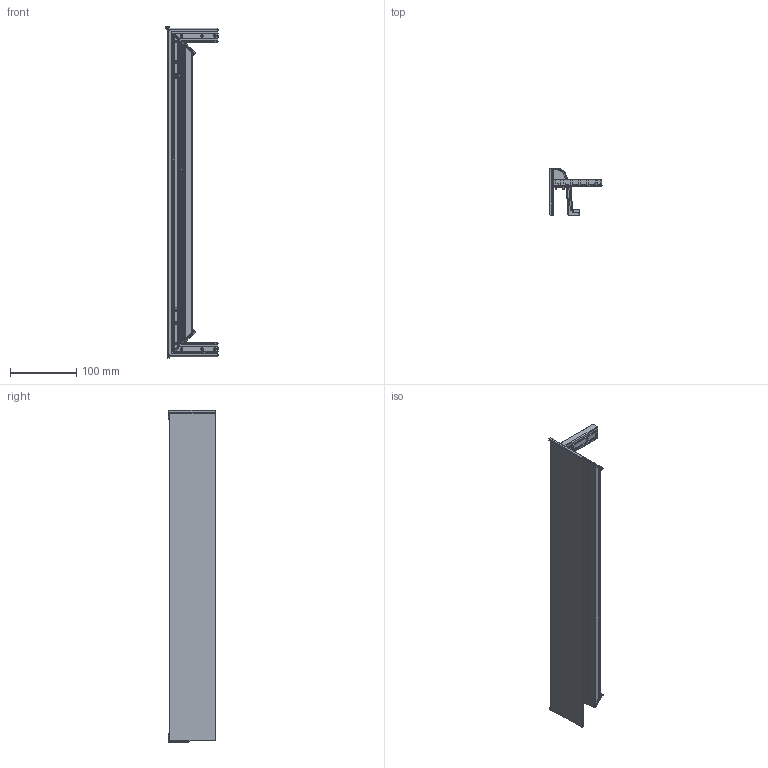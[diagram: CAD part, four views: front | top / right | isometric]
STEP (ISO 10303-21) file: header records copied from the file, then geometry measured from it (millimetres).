
FILE_DESCRIPTION (( 'STEP AP203' ), '1' );
FILE_NAME ('A - Sponda Laterale SX.STEP', '2023-02-09T21:31:15', ( '' ), ( '' ), 'SwSTEP 2.0', 'SolidWorks 2023', '' );
FILE_SCHEMA (( 'CONFIG_CONTROL_DESIGN' ));
Length unit declared in the file: millimetre
Products named in the file (5): Angolare - 191P01100; Spondina 496 - 191P00100; Pinna Angolare Posteriore - 191P01300; Pinna Angolare Anteriore - 191P01200; A - Sponda Laterale SX
Assembly tree (5 placements, depth 2):
  A - Sponda Laterale SX
    Spondina 496 - 191P00100
    Angolare - 191P01100  x2
    Pinna Angolare Anteriore - 191P01200
    Pinna Angolare Posteriore - 191P01300
Bounding box: 78.47 x 71 x 500.81 mm (x, y, z)
Volume: 200358.4 mm3; surface area: 231046.2 mm2
Topology: 5 solids, 9 shells, 3966 faces, 9606 edges, 5269 vertices
Faces by surface type: cylinder 1691, plane 850, bspline 828, sphere 430, torus 91, cone 76
Entity records: 76311 total; most frequent: CARTESIAN_POINT 27324, ORIENTED_EDGE 10944, DIRECTION 9415, EDGE_CURVE 5472, AXIS2_PLACEMENT_3D 3492, VERTEX_POINT 3170, VECTOR 2431, LINE 2431
